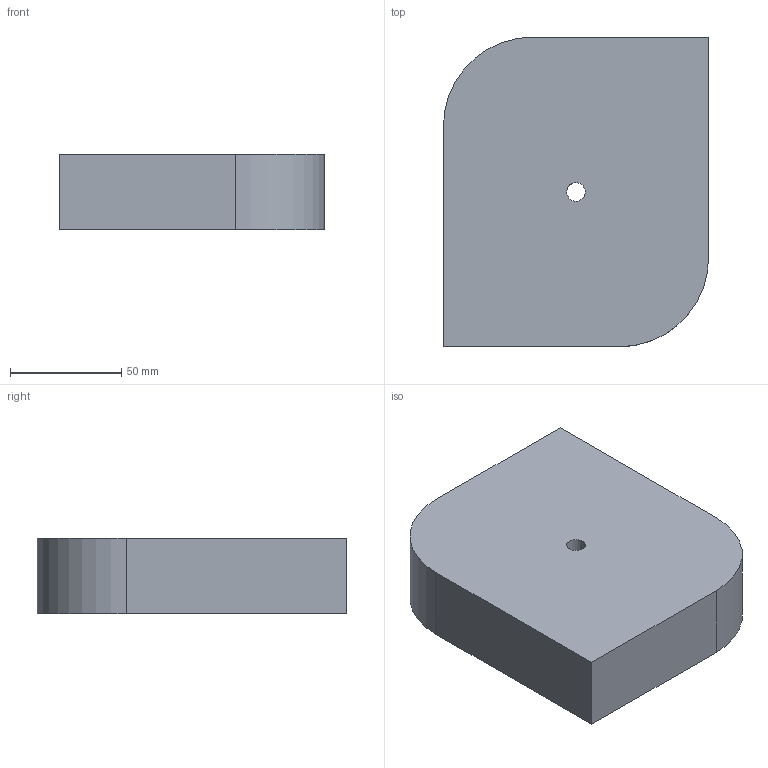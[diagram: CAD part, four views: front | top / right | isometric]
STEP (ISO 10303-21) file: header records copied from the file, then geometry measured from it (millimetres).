
FILE_DESCRIPTION(('CATIA V5 STEP Exchange'),'2;1');
FILE_NAME('C:\_Andres\UNIVERSIDAD\IQS\ASIGNATURAS\DAO\EXF\EXF-15161c\1original\Wand_Domenech_Ej01-plano_v29.stp','2016-03-04T14:59:48+00:00',('none'),('none'),'CATIA Version 5 Release 20 SP 1 (IN-10)','CATIA V5 STEP AP203','none');
FILE_SCHEMA(('CONFIG_CONTROL_DESIGN'));
Length unit declared in the file: millimetre
Products named in the file (1): Wand_Domenech_Ej01-plano_v29
Bounding box: 119 x 139 x 34 mm (x, y, z)
Volume: 537171.9 mm3; surface area: 48869.6 mm2
Topology: 1 solids, 1 shells, 10 faces, 24 edges, 16 vertices
Faces by surface type: plane 6, cylinder 4
Entity records: 333 total; most frequent: CARTESIAN_POINT 51, ORIENTED_EDGE 48, DIRECTION 44, EDGE_CURVE 24, AXIS2_PLACEMENT_3D 19, VECTOR 16, LINE 16, VERTEX_POINT 16
